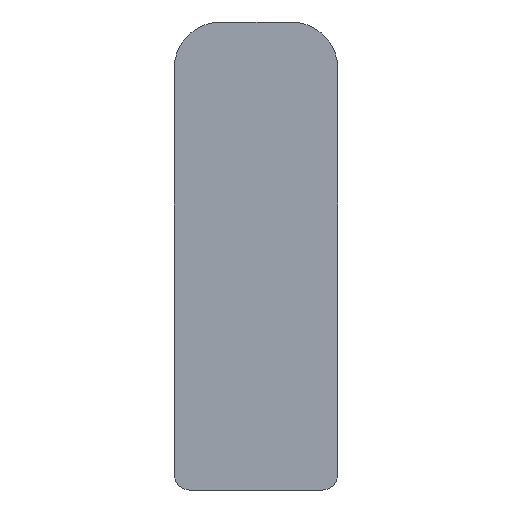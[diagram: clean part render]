
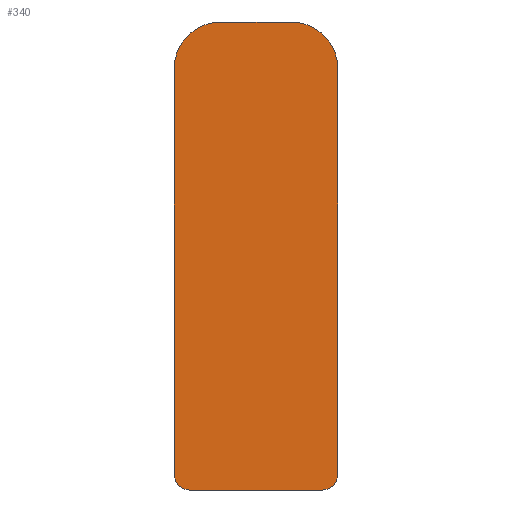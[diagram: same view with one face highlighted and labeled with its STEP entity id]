
A CAD part, left-side view. The second image highlights one B-rep face of the part: STEP entity #340.
In plain terms, the highlighted planar face has unit normal (-1, 0, 0).
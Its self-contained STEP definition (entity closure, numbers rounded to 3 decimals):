
#14 = FACE_OUTER_BOUND ( 'NONE', #136, .T. ) ;
#22 = CIRCLE ( 'NONE', #82, 3. ) ;
#33 = VECTOR ( 'NONE', #323, 1000. ) ;
#37 = VECTOR ( 'NONE', #272, 1000. ) ;
#38 = LINE ( 'NONE', #273, #37 ) ;
#39 = LINE ( 'NONE', #324, #33 ) ;
#41 = CIRCLE ( 'NONE', #78, 1. ) ;
#47 = VECTOR ( 'NONE', #288, 1000. ) ;
#48 = LINE ( 'NONE', #289, #47 ) ;
#50 = CIRCLE ( 'NONE', #80, 1. ) ;
#56 = VECTOR ( 'NONE', #305, 1000. ) ;
#57 = LINE ( 'NONE', #306, #56 ) ;
#67 = AXIS2_PLACEMENT_3D ( 'NONE', #209, #207, #206 ) ;
#78 = AXIS2_PLACEMENT_3D ( 'NONE', #279, #277, #276 ) ;
#80 = AXIS2_PLACEMENT_3D ( 'NONE', #297, #295, #294 ) ;
#82 = AXIS2_PLACEMENT_3D ( 'NONE', #315, #314, #313 ) ;
#84 = AXIS2_PLACEMENT_3D ( 'NONE', #213, #211, #208 ) ;
#89 = EDGE_CURVE ( 'NONE', #293, #296, #182, .T. ) ;
#93 = EDGE_CURVE ( 'NONE', #296, #318, #39, .T. ) ;
#96 = EDGE_CURVE ( 'NONE', #318, #283, #22, .T. ) ;
#99 = EDGE_CURVE ( 'NONE', #283, #300, #57, .T. ) ;
#102 = EDGE_CURVE ( 'NONE', #300, #303, #50, .T. ) ;
#104 = EDGE_CURVE ( 'NONE', #303, #332, #48, .T. ) ;
#107 = EDGE_CURVE ( 'NONE', #332, #307, #41, .T. ) ;
#109 = EDGE_CURVE ( 'NONE', #307, #293, #38, .T. ) ;
#136 = EDGE_LOOP ( 'NONE', ( #165, #166, #167, #168, #169, #170, #171, #172 ) ) ;
#165 = ORIENTED_EDGE ( 'NONE', *, *, #89, .T. ) ;
#166 = ORIENTED_EDGE ( 'NONE', *, *, #93, .T. ) ;
#167 = ORIENTED_EDGE ( 'NONE', *, *, #96, .T. ) ;
#168 = ORIENTED_EDGE ( 'NONE', *, *, #99, .T. ) ;
#169 = ORIENTED_EDGE ( 'NONE', *, *, #102, .T. ) ;
#170 = ORIENTED_EDGE ( 'NONE', *, *, #104, .T. ) ;
#171 = ORIENTED_EDGE ( 'NONE', *, *, #107, .T. ) ;
#172 = ORIENTED_EDGE ( 'NONE', *, *, #109, .T. ) ;
#182 = CIRCLE ( 'NONE', #84, 3. ) ;
#206 = DIRECTION ( 'NONE',  ( 0., 0., 1. ) ) ;
#207 = DIRECTION ( 'NONE',  ( -1., 0., 0. ) ) ;
#208 = DIRECTION ( 'NONE',  ( 0., 0., 1. ) ) ;
#209 = CARTESIAN_POINT ( 'NONE',  ( -503.25, -2.25, 27. ) ) ;
#210 = PLANE ( 'NONE',  #67 ) ;
#211 = DIRECTION ( 'NONE',  ( -1., 0., 0. ) ) ;
#213 = CARTESIAN_POINT ( 'NONE',  ( -503.25, -2.25, 27. ) ) ;
#246 = CARTESIAN_POINT ( 'NONE',  ( -503.25, -4.25, 0. ) ) ;
#252 = CARTESIAN_POINT ( 'NONE',  ( -503.25, 2.25, 30. ) ) ;
#254 = CARTESIAN_POINT ( 'NONE',  ( -503.25, -5.25, 1. ) ) ;
#255 = CARTESIAN_POINT ( 'NONE',  ( -503.25, 4.25, 0. ) ) ;
#256 = CARTESIAN_POINT ( 'NONE',  ( -503.25, 5.25, 1. ) ) ;
#257 = CARTESIAN_POINT ( 'NONE',  ( -503.25, -2.25, 30. ) ) ;
#258 = CARTESIAN_POINT ( 'NONE',  ( -503.25, -5.25, 27. ) ) ;
#261 = CARTESIAN_POINT ( 'NONE',  ( -503.25, 5.25, 27. ) ) ;
#272 = DIRECTION ( 'NONE',  ( 0., 0., 1. ) ) ;
#273 = CARTESIAN_POINT ( 'NONE',  ( -503.25, -5.25, 1. ) ) ;
#276 = DIRECTION ( 'NONE',  ( 0., 0., -1. ) ) ;
#277 = DIRECTION ( 'NONE',  ( -1., 0., 0. ) ) ;
#279 = CARTESIAN_POINT ( 'NONE',  ( -503.25, -4.25, 1. ) ) ;
#283 = VERTEX_POINT ( 'NONE', #261 ) ;
#288 = DIRECTION ( 'NONE',  ( 0., -1., 0. ) ) ;
#289 = CARTESIAN_POINT ( 'NONE',  ( -503.25, -4.25, 0. ) ) ;
#293 = VERTEX_POINT ( 'NONE', #258 ) ;
#294 = DIRECTION ( 'NONE',  ( 0., 0., -1. ) ) ;
#295 = DIRECTION ( 'NONE',  ( -1., 0., 0. ) ) ;
#296 = VERTEX_POINT ( 'NONE', #257 ) ;
#297 = CARTESIAN_POINT ( 'NONE',  ( -503.25, 4.25, 1. ) ) ;
#300 = VERTEX_POINT ( 'NONE', #256 ) ;
#303 = VERTEX_POINT ( 'NONE', #255 ) ;
#305 = DIRECTION ( 'NONE',  ( 0., 0., -1. ) ) ;
#306 = CARTESIAN_POINT ( 'NONE',  ( -503.25, 5.25, 1. ) ) ;
#307 = VERTEX_POINT ( 'NONE', #254 ) ;
#313 = DIRECTION ( 'NONE',  ( 0., 0., -1. ) ) ;
#314 = DIRECTION ( 'NONE',  ( -1., 0., 0. ) ) ;
#315 = CARTESIAN_POINT ( 'NONE',  ( -503.25, 2.25, 27. ) ) ;
#318 = VERTEX_POINT ( 'NONE', #252 ) ;
#323 = DIRECTION ( 'NONE',  ( 0., 1., 0. ) ) ;
#324 = CARTESIAN_POINT ( 'NONE',  ( -503.25, -2.25, 30. ) ) ;
#332 = VERTEX_POINT ( 'NONE', #246 ) ;
#340 = ADVANCED_FACE ( 'NONE', ( #14 ), #210, .T. ) ;
